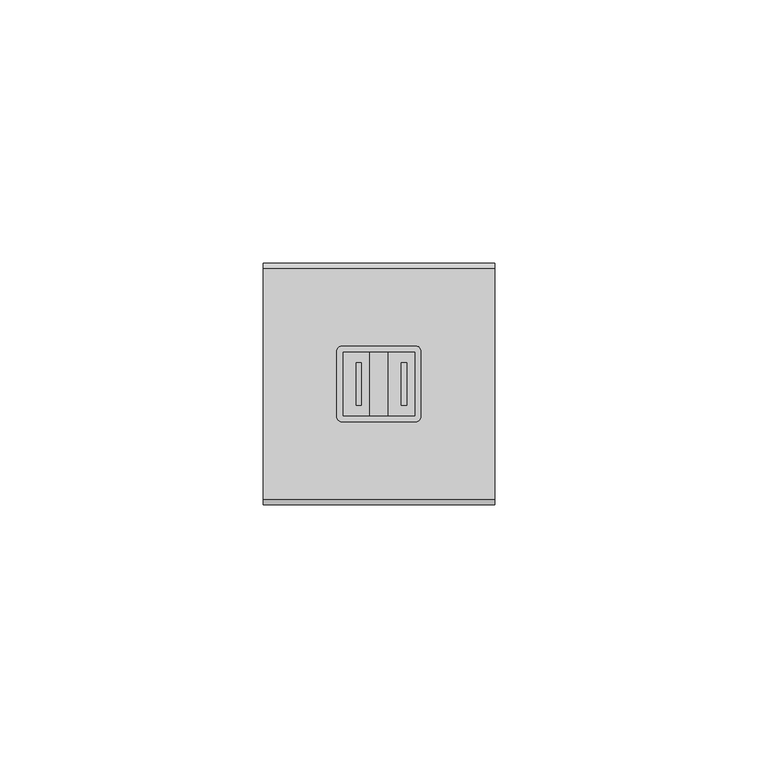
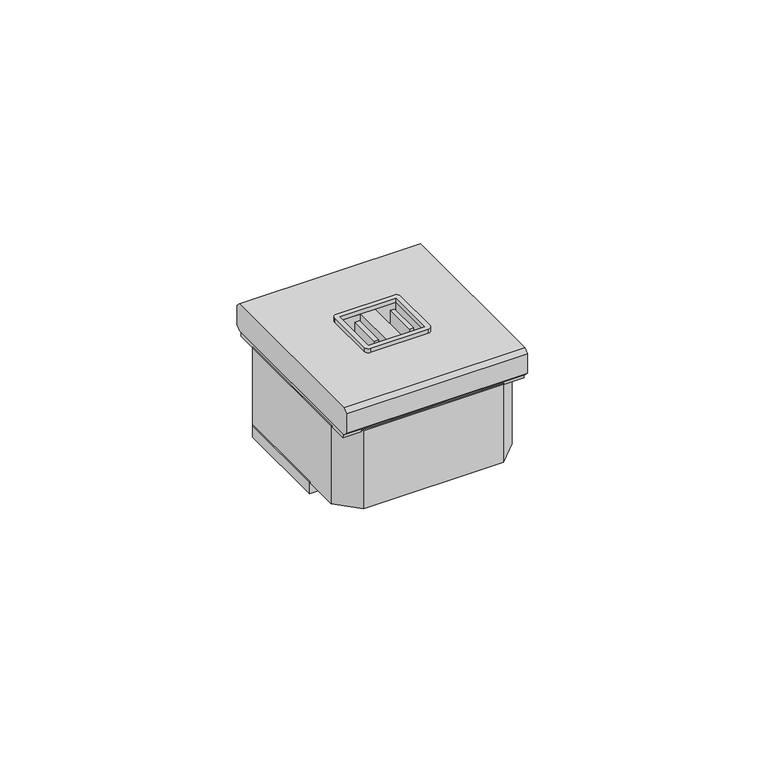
"""IFC4 building model written with IfcOpenShell, lengths in millimetres: proxy geometry, L4285C2 LL USB charger 2 prese : L4285C2 LL USB charger 2 prese."""

from ifc_helpers import new_model, si_unit, point, frame, frame_2d, origin, origin_with_axes, place, context, project, spatial, polyline, circle_curve, trimmed, segment, composite_curve, outline, extrude, faceted_brep, source, transform, mapped, element, save


def electrical_fixtures_a53ccfab(model_context):
    return source(origin(), model_context, "Body", "SolidModel", [
        extrude(outline(polyline([(-3.3, 4.0), (-3.3, -4.0), (-4.3, -4.0), (-4.3, 4.0), (-3.3, 4.0)])), frame((0.0, 0.0, 1.0), z_axis=(0.0, 0.0, 1.0), x_axis=(1.0, 0.0, 0.0)), (0.0, 0.0, 1.0), 6.979899),
        extrude(outline(composite_curve([segment(trimmed(circle_curve(frame_2d((7.0, 6.2)), 1.0), [point((7.0, 7.2))], [point((8.0, 6.2))], False, "CARTESIAN"), True, "CONTINUOUS"), segment(polyline([(8.0, 6.2), (8.0, -6.2)]), True, "CONTINUOUS"), segment(trimmed(circle_curve(frame_2d((7.0, -6.2)), 1.0), [point((8.0, -6.2))], [point((7.0, -7.2))], False, "CARTESIAN"), True, "CONTINUOUS"), segment(polyline([(7.0, -7.2), (-7.0, -7.2)]), True, "CONTINUOUS"), segment(trimmed(circle_curve(frame_2d((-7.0, -6.2)), 1.0), [point((-7.0, -7.2))], [point((-8.0, -6.2))], False, "CARTESIAN"), True, "CONTINUOUS"), segment(polyline([(-8.0, -6.2), (-8.0, 6.2)]), True, "CONTINUOUS"), segment(trimmed(circle_curve(frame_2d((-7.0, 6.2)), 1.0), [point((-8.0, 6.2))], [point((-7.0, 7.2))], False, "CARTESIAN"), True, "CONTINUOUS"), segment(polyline([(-7.0, 7.2), (7.0, 7.2)]), True, "CONTINUOUS")], self_intersect=False), holes=[polyline([(6.8, 6.0), (-6.8, 6.0), (-6.8, -6.0), (6.8, -6.0), (6.8, 6.0)])]), frame((0.0, 0.0, 7.979899), z_axis=(0.0, 0.0, 1.0), x_axis=(1.0, 0.0, 0.0)), (0.0, 0.0, 1.0), 1.0433905),
        extrude(outline(polyline([(5.3, 4.0), (5.3, -4.0), (4.3, -4.0), (4.3, 4.0), (5.3, 4.0)])), frame((0.0, 0.0, 1.0), z_axis=(0.0, 0.0, 1.0), x_axis=(1.0, 0.0, 0.0)), (0.0, 0.0, 1.0), 6.979899),
        faceted_brep([(22.0, -22.0, 1.0), (22.0, 22.0, 1.0), (22.0, 22.9899495, 1.9899495), (22.0, 22.9899495, 6.9899495), (22.0, 22.0, 7.979899), (22.0, -22.0, 7.979899), (22.0, -22.9899495, 6.9899495), (22.0, -22.9899495, 1.9899495), (-22.0, -22.0, 1.0), (-22.0, -22.9899495, 1.9899495), (-22.0, -22.9899495, 6.9899495), (-22.0, -22.0, 7.979899), (-22.0, 22.0, 7.979899), (-22.0, 22.9899495, 6.9899495), (-22.0, 22.9899495, 1.9899495), (-22.0, 22.0, 1.0), (6.8, -6.0, 1.0), (6.8, 6.0, 1.0), (1.8, 6.0, 1.0), (1.8, -6.0, 1.0), (-6.8, -6.0, 1.0), (-1.8, -6.0, 1.0), (-1.8, 6.0, 1.0), (-6.8, 6.0, 1.0), (6.8, 6.0, 7.979899), (6.8, -6.0, 7.979899), (1.8, -6.0, 7.979899), (1.8, 6.0, 7.979899), (-1.8, -6.0, 7.979899), (-6.8, -6.0, 7.979899), (-6.8, 6.0, 7.979899), (-1.8, 6.0, 7.979899)], [[[0, 1, 2, 3, 4, 5, 6, 7]], [[8, 9, 10, 11, 12, 13, 14, 15]], [[1, 0, 8, 15], [16, 17, 18, 19], [20, 21, 22, 23]], [[6, 5, 11, 10]], [[7, 6, 10, 9]], [[0, 7, 9, 8]], [[2, 1, 15, 14]], [[3, 2, 14, 13]], [[4, 3, 13, 12]], [[5, 4, 12, 11], [24, 25, 26, 27], [28, 29, 30, 31]], [[24, 17, 16, 25]], [[17, 24, 27, 18]], [[18, 27, 26, 19]], [[25, 16, 19, 26]], [[28, 21, 20, 29]], [[21, 28, 31, 22]], [[22, 31, 30, 23]], [[29, 20, 23, 30]]]),
        extrude(outline(polyline([(-22.0, -7.5), (-22.0, 16.5), (-20.0, 18.5), (20.0, 18.5), (22.0, 16.5), (22.0, -7.5), (-22.0, -7.5)])), frame((0.0, 0.0, -23.0), z_axis=(0.0, 0.0, 1.0), x_axis=(1.0, 0.0, 0.0)), (0.0, 0.0, 1.0), 3.0),
        extrude(outline(polyline([(22.0, -16.5), (17.0, -21.5), (-17.0, -21.5), (-22.0, -16.5), (-22.0, 16.5), (-17.0, 21.5), (17.0, 21.5), (22.0, 16.5), (22.0, -16.5)])), frame((0.0, 0.0, -20.0), z_axis=(0.0, 0.0, 1.0), x_axis=(1.0, 0.0, 0.0)), (0.0, 0.0, 1.0), 20.0),
        extrude(outline(polyline([(22.0, -21.5), (-22.0, -21.5), (-22.0, 21.5), (22.0, 21.5), (22.0, -21.5)])), origin_with_axes(), (0.0, 0.0, 1.0), 1.0),
    ])


if __name__ == "__main__":
    model = new_model("IFC4")
    model_context = context("Model", 3, world=origin())
    ifc_project = project(units=[si_unit("LENGTHUNIT", "METRE", prefix="MILLI")], contexts=[model_context])
    site = spatial("IfcSite", under=ifc_project)
    building = spatial("IfcBuilding", under=site)
    placement = place(None, origin())
    electrical_fixtures_shape = electrical_fixtures_a53ccfab(model_context)
    element("IfcBuildingElementProxy", 1, Name="L4285C2 LL USB charger 2 prese : L4285C2 LL USB charger 2 prese", ObjectType="L4285C2 LL USB charger 2 prese : L4285C2 LL USB charger 2 prese", at=placement, inside=building, context=model_context, shape_type="MappedRepresentation", body=[
        mapped(electrical_fixtures_shape, transform((0.0, 0.0, 0.0), x_axis=(1.0, 0.0, 0.0), y_axis=(0.0, 1.0, 0.0), z_axis=(0.0, 0.0, 1.0))),
    ])
    save(model, "model.ifc")
